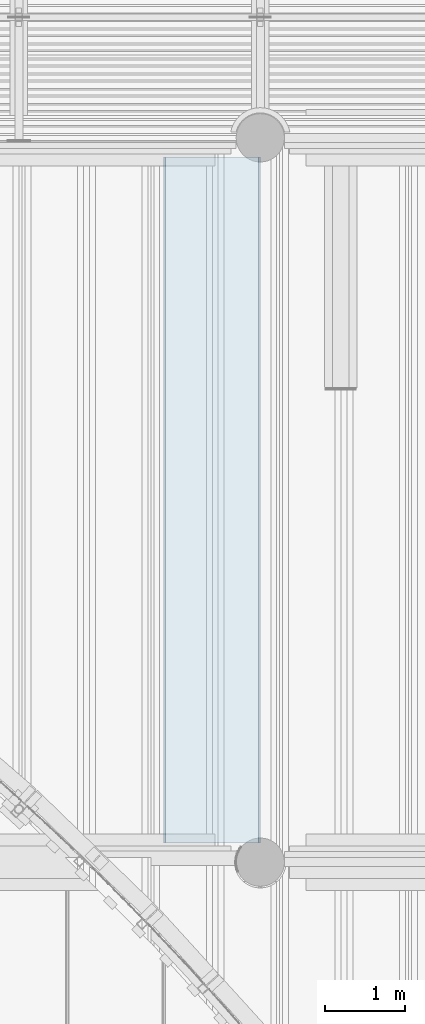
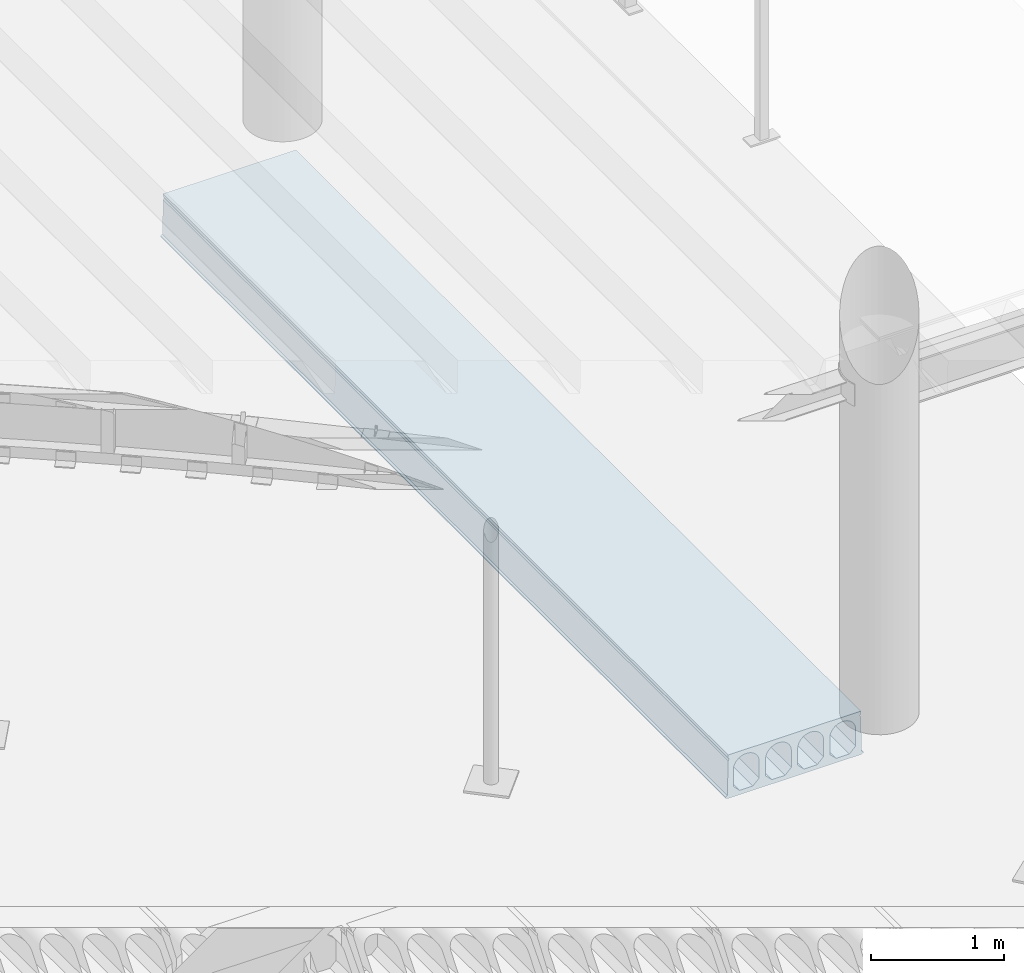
# One storey, part 67 of 98: 1 slab.
"""IFC2X3 building model written with IfcOpenShell, lengths in millimetres."""

from ifc_helpers import new_model, entity, si_unit, converted_unit, derived_unit, direction, frame, origin_with_axes, place, context, subcontext, project, spatial, faceted_brep, material, type_object, element, save


model = new_model("IFC2X3")

# Units and contexts
model_context = context("Model", 3, precision=0.01, world=frame((0.0, 4.29681676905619e-09, 0.0)), true_north=direction((4.01073788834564e-13, 1.0)))
plan_context = context("Plan", 3, precision=0.01, world=frame((0.0, 4.29681676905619e-09, 0.0)), true_north=direction((4.01073788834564e-13, 1.0)))
body_context = subcontext(model_context, "Body", "Model", "MODEL_VIEW")
ifc_project = project(units=[converted_unit("PLANEANGLEUNIT", "DEGREE", entity("IfcPositiveLengthMeasure", 0.0174532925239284), si_unit("PLANEANGLEUNIT", "RADIAN"), dimensions=[0, 0, 0, 0, 0, 0, 0]), si_unit("AREAUNIT", "SQUARE_METRE"), si_unit("LENGTHUNIT", "METRE", prefix="MILLI"), si_unit("MASSUNIT", "GRAM", prefix="KILO"), si_unit("POWERUNIT", "WATT"), si_unit("PRESSUREUNIT", "PASCAL"), si_unit("FORCEUNIT", "NEWTON", prefix="KILO"), si_unit("ELECTRICCURRENTUNIT", "AMPERE"), si_unit("THERMODYNAMICTEMPERATUREUNIT", "DEGREE_CELSIUS"), si_unit("TIMEUNIT", "SECOND"), si_unit("VOLUMEUNIT", "CUBIC_METRE"), derived_unit("LINEARVELOCITYUNIT", [(si_unit("LENGTHUNIT", "METRE"), 1), (si_unit("TIMEUNIT", "SECOND"), -1)]), derived_unit("VOLUMETRICFLOWRATEUNIT", [(si_unit("VOLUMEUNIT", "CUBIC_METRE"), 1), (si_unit("TIMEUNIT", "SECOND"), -1)]), derived_unit("THERMALTRANSMITTANCEUNIT", [(si_unit("POWERUNIT", "WATT"), 1), (si_unit("THERMODYNAMICTEMPERATUREUNIT", "KELVIN"), -1), (si_unit("AREAUNIT", "SQUARE_METRE"), -1)])], contexts=[model_context, plan_context])

# Site, building, storey
site_placement = place(None, frame((0.0, -4.29681676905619e-09, 0.0), z_axis=(0.0, 0.0, 1.0), x_axis=(1.0, 0.0, 0.0)))
site = spatial("IfcSite", under=ifc_project, at=site_placement, Name="Gardermoen", CompositionType="ELEMENT")
building_placement = place(site_placement, frame((0.0, 4.29681676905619e-09, 0.0), z_axis=(0.0, 0.0, 1.0), x_axis=(1.0, 0.0, 0.0)))
building = spatial("IfcBuilding", under=site, at=building_placement, Name="TS", CompositionType="ELEMENT")
storey_placement = place(building_placement, origin_with_axes())
storey = spatial("IfcBuildingStorey", under=building, at=storey_placement, Name="D", CompositionType="ELEMENT", Elevation=0.0)

# Slab
ifc_material = material(Name="CONCRETE/C45/55")
slab_type = type_object("IfcSlabType", Name="HD400", PredefinedType="NOTDEFINED")
slab_placement = place(storey_placement, frame((528399.999766, 405739.995625, 203600.0), z_axis=(0.0, 0.0, 1.0), x_axis=(0.0, 1.0, 0.0)))
element("IfcSlab", 1, at=slab_placement, inside=storey, type_object=slab_type, material=ifc_material, Name="HULLDEKKE", ObjectType="HD400", PredefinedType="FLOOR", context=body_context, shape_type="Brep", body=[
    faceted_brep([(0.0, 600.0, -190.0), (0.0, 600.0, -180.0), (8520.00875000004, 600.0, -180.0), (8520.00875000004, 600.0, -190.0), (0.0, 585.0, -170.0), (8520.00875000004, 585.0, -170.0), (0.0, 577.5, 145.0), (8520.00875000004, 577.5, 145.0), (0.0, 570.0, 160.0), (8520.00875000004, 570.0, 160.0), (0.0, 577.5, 175.0), (8520.00875000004, 577.5, 175.0), (0.0, 577.5, 200.0), (8520.00875000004, 577.5, 200.0), (0.0, -577.5, 200.0), (8520.00875000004, -577.5, 200.0), (0.0, -577.5, 175.0), (8520.00875000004, -577.5, 175.0), (0.0, -570.0, 160.0), (8520.00875000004, -570.0, 160.0), (0.0, -577.5, 145.0), (8520.00875000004, -577.5, 145.0), (0.0, -585.0, -170.0), (8520.00875000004, -585.0, -170.0), (0.0, -600.0, -180.0), (8520.00875000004, -600.0, -180.0), (0.0, -600.0, -190.0), (8520.00875000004, -600.0, -190.0), (0.0, -583.380004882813, -200.0), (8520.00875000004, -583.380004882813, -200.0), (0.0, 583.380004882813, -200.0), (8520.00875000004, 583.380004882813, -200.0), (0.0, -362.5, -160.0), (0.0, -477.5, -160.0), (8520.00875000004, -477.5, -160.0), (8520.00875000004, -362.5, -160.0), (0.0, -532.5, -105.0), (8520.00875000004, -532.5, -105.0), (0.0, -532.5, 47.5), (8520.00875000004, -532.5, 47.5), (0.0, -532.115755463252, 56.7901763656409), (8520.00875000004, -532.115755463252, 56.7901763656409), (0.0, -530.965646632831, 66.0168914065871), (8520.00875000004, -530.965646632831, 66.0168914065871), (0.0, -529.057529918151, 75.1171173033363), (8520.00875000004, -529.057529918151, 75.1171173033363), (0.0, -526.404439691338, 84.028690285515), (8520.00875000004, -526.404439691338, 84.028690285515), (0.0, -523.024499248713, 92.6907352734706), (8520.00875000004, -523.024499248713, 92.6907352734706), (0.0, -518.940797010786, 101.044081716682), (8520.00875000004, -518.940797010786, 101.044081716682), (0.0, -514.181228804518, 109.031667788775), (8520.00875000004, -514.181228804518, 109.031667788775), (0.0, -508.778307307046, 116.598930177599), (8520.00875000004, -508.778307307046, 116.598930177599), (0.0, -502.768939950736, 123.694176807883), (8520.00875000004, -502.768939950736, 123.694176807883), (0.0, -496.194176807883, 130.268939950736), (8520.00875000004, -496.194176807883, 130.268939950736), (0.0, -489.098930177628, 136.278307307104), (8520.00875000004, -489.098930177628, 136.278307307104), (0.0, -481.531667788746, 141.681228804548), (8520.00875000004, -481.531667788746, 141.681228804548), (0.0, -473.544081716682, 146.440797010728), (8520.00875000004, -473.544081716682, 146.440797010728), (0.0, -465.190735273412, 150.524499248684), (8520.00875000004, -465.190735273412, 150.524499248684), (0.0, -456.528690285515, 153.904439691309), (8520.00875000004, -456.528690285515, 153.904439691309), (0.0, -447.617117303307, 156.55752991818), (8520.00875000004, -447.617117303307, 156.55752991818), (0.0, -438.516891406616, 158.465646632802), (8520.00875000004, -438.516891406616, 158.465646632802), (0.0, -429.290176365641, 159.615755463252), (8520.00875000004, -429.290176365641, 159.615755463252), (0.0, -420.0, 160.0), (8520.00875000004, -420.0, 160.0), (0.0, -410.709823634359, 159.615755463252), (8520.00875000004, -410.709823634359, 159.615755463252), (0.0, -401.483108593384, 158.465646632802), (8520.00875000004, -401.483108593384, 158.465646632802), (0.0, -392.382882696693, 156.55752991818), (8520.00875000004, -392.382882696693, 156.55752991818), (0.0, -383.471309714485, 153.904439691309), (8520.00875000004, -383.471309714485, 153.904439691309), (0.0, -374.809264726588, 150.524499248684), (8520.00875000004, -374.809264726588, 150.524499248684), (0.0, -366.455918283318, 146.440797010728), (8520.00875000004, -366.455918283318, 146.440797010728), (0.0, -358.468332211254, 141.681228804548), (8520.00875000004, -358.468332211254, 141.681228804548), (0.0, -350.901069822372, 136.278307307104), (8520.00875000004, -350.901069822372, 136.278307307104), (0.0, -343.805823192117, 130.268939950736), (8520.00875000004, -343.805823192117, 130.268939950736), (0.0, -337.231060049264, 123.694176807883), (8520.00875000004, -337.231060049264, 123.694176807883), (0.0, -331.221692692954, 116.598930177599), (8520.00875000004, -331.221692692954, 116.598930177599), (0.0, -325.818771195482, 109.031667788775), (8520.00875000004, -325.818771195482, 109.031667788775), (0.0, -321.059202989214, 101.044081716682), (8520.00875000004, -321.059202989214, 101.044081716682), (0.0, -316.975500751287, 92.6907352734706), (8520.00875000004, -316.975500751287, 92.6907352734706), (0.0, -313.595560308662, 84.028690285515), (8520.00875000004, -313.595560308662, 84.028690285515), (0.0, -310.942470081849, 75.1171173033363), (8520.00875000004, -310.942470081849, 75.1171173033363), (0.0, -309.034353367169, 66.0168914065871), (8520.00875000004, -309.034353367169, 66.0168914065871), (0.0, -307.884244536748, 56.7901763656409), (8520.00875000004, -307.884244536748, 56.7901763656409), (0.0, -307.5, 47.5), (8520.00875000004, -307.5, 47.5), (0.0, -307.5, -105.0), (8520.00875000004, -307.5, -105.0), (0.0, -82.5, -160.0), (0.0, -197.5, -160.0), (8520.00875000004, -197.5, -160.0), (8520.00875000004, -82.5, -160.0), (0.0, -252.5, -105.0), (8520.00875000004, -252.5, -105.0), (0.0, -252.5, 47.5), (8520.00875000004, -252.5, 47.5), (0.0, -252.115755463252, 56.7901763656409), (8520.00875000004, -252.115755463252, 56.7901763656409), (0.0, -250.965646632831, 66.0168914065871), (8520.00875000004, -250.965646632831, 66.0168914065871), (0.0, -249.057529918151, 75.1171173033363), (8520.00875000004, -249.057529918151, 75.1171173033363), (0.0, -246.404439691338, 84.028690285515), (8520.00875000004, -246.404439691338, 84.028690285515), (0.0, -243.024499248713, 92.6907352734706), (8520.00875000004, -243.024499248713, 92.6907352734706), (0.0, -238.940797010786, 101.044081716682), (8520.00875000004, -238.940797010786, 101.044081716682), (0.0, -234.181228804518, 109.031667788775), (8520.00875000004, -234.181228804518, 109.031667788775), (0.0, -228.778307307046, 116.598930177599), (8520.00875000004, -228.778307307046, 116.598930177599), (0.0, -222.768939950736, 123.694176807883), (8520.00875000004, -222.768939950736, 123.694176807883), (0.0, -216.194176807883, 130.268939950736), (8520.00875000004, -216.194176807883, 130.268939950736), (0.0, -209.098930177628, 136.278307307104), (8520.00875000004, -209.098930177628, 136.278307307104), (0.0, -201.531667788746, 141.681228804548), (8520.00875000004, -201.531667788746, 141.681228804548), (0.0, -193.544081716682, 146.440797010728), (8520.00875000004, -193.544081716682, 146.440797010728), (0.0, -185.190735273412, 150.524499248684), (8520.00875000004, -185.190735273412, 150.524499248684), (0.0, -176.528690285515, 153.904439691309), (8520.00875000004, -176.528690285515, 153.904439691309), (0.0, -167.617117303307, 156.55752991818), (8520.00875000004, -167.617117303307, 156.55752991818), (0.0, -158.516891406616, 158.465646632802), (8520.00875000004, -158.516891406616, 158.465646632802), (0.0, -149.290176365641, 159.615755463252), (8520.00875000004, -149.290176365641, 159.615755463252), (0.0, -140.0, 160.0), (8520.00875000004, -140.0, 160.0), (0.0, -130.709823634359, 159.615755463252), (8520.00875000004, -130.709823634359, 159.615755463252), (0.0, -121.483108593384, 158.465646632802), (8520.00875000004, -121.483108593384, 158.465646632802), (0.0, -112.382882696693, 156.55752991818), (8520.00875000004, -112.382882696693, 156.55752991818), (0.0, -103.471309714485, 153.904439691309), (8520.00875000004, -103.471309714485, 153.904439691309), (0.0, -94.8092647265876, 150.524499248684), (8520.00875000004, -94.8092647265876, 150.524499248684), (0.0, -86.4559182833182, 146.440797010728), (8520.00875000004, -86.4559182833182, 146.440797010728), (0.0, -78.4683322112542, 141.681228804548), (8520.00875000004, -78.4683322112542, 141.681228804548), (0.0, -70.9010698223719, 136.278307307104), (8520.00875000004, -70.9010698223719, 136.278307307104), (0.0, -63.8058231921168, 130.268939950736), (8520.00875000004, -63.8058231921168, 130.268939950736), (0.0, -57.2310600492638, 123.694176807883), (8520.00875000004, -57.2310600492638, 123.694176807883), (0.0, -51.2216926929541, 116.598930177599), (8520.00875000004, -51.2216926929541, 116.598930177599), (0.0, -45.8187711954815, 109.031667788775), (8520.00875000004, -45.8187711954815, 109.031667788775), (0.0, -41.0592029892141, 101.044081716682), (8520.00875000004, -41.0592029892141, 101.044081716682), (0.0, -36.9755007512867, 92.6907352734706), (8520.00875000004, -36.9755007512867, 92.6907352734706), (0.0, -33.5955603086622, 84.028690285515), (8520.00875000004, -33.5955603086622, 84.028690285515), (0.0, -30.942470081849, 75.1171173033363), (8520.00875000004, -30.942470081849, 75.1171173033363), (0.0, -29.0343533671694, 66.0168914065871), (8520.00875000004, -29.0343533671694, 66.0168914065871), (0.0, -27.8842445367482, 56.7901763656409), (8520.00875000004, -27.8842445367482, 56.7901763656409), (0.0, -27.5, 47.5), (8520.00875000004, -27.5, 47.5), (0.0, -27.5, -105.0), (8520.00875000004, -27.5, -105.0), (0.0, 197.5, -160.0), (0.0, 82.5, -160.0), (8520.00875000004, 82.5, -160.0), (8520.00875000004, 197.5, -160.0), (0.0, 27.5, -105.0), (8520.00875000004, 27.5, -105.0), (0.0, 27.5, 47.5), (8520.00875000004, 27.5, 47.5), (0.0, 27.8842445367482, 56.7901763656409), (8520.00875000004, 27.8842445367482, 56.7901763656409), (0.0, 29.0343533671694, 66.0168914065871), (8520.00875000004, 29.0343533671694, 66.0168914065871), (0.0, 30.942470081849, 75.1171173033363), (8520.00875000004, 30.942470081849, 75.1171173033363), (0.0, 33.5955603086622, 84.028690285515), (8520.00875000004, 33.5955603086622, 84.028690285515), (0.0, 36.9755007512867, 92.6907352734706), (8520.00875000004, 36.9755007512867, 92.6907352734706), (0.0, 41.0592029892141, 101.044081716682), (8520.00875000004, 41.0592029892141, 101.044081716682), (0.0, 45.8187711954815, 109.031667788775), (8520.00875000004, 45.8187711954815, 109.031667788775), (0.0, 51.2216926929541, 116.598930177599), (8520.00875000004, 51.2216926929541, 116.598930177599), (0.0, 57.2310600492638, 123.694176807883), (8520.00875000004, 57.2310600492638, 123.694176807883), (0.0, 63.8058231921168, 130.268939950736), (8520.00875000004, 63.8058231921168, 130.268939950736), (0.0, 70.9010698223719, 136.278307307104), (8520.00875000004, 70.9010698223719, 136.278307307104), (0.0, 78.4683322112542, 141.681228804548), (8520.00875000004, 78.4683322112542, 141.681228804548), (0.0, 86.4559182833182, 146.440797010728), (8520.00875000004, 86.4559182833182, 146.440797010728), (0.0, 94.8092647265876, 150.524499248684), (8520.00875000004, 94.8092647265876, 150.524499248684), (0.0, 103.471309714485, 153.904439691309), (8520.00875000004, 103.471309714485, 153.904439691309), (0.0, 112.382882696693, 156.55752991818), (8520.00875000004, 112.382882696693, 156.55752991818), (0.0, 121.483108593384, 158.465646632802), (8520.00875000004, 121.483108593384, 158.465646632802), (0.0, 130.709823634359, 159.615755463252), (8520.00875000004, 130.709823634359, 159.615755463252), (0.0, 140.0, 160.0), (8520.00875000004, 140.0, 160.0), (0.0, 149.290176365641, 159.615755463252), (8520.00875000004, 149.290176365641, 159.615755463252), (0.0, 158.516891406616, 158.465646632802), (8520.00875000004, 158.516891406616, 158.465646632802), (0.0, 167.617117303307, 156.55752991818), (8520.00875000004, 167.617117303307, 156.55752991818), (0.0, 176.528690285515, 153.904439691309), (8520.00875000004, 176.528690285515, 153.904439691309), (0.0, 185.190735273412, 150.524499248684), (8520.00875000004, 185.190735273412, 150.524499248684), (0.0, 193.544081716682, 146.440797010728), (8520.00875000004, 193.544081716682, 146.440797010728), (0.0, 201.531667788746, 141.681228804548), (8520.00875000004, 201.531667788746, 141.681228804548), (0.0, 209.098930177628, 136.278307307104), (8520.00875000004, 209.098930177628, 136.278307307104), (0.0, 216.194176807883, 130.268939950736), (8520.00875000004, 216.194176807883, 130.268939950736), (0.0, 222.768939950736, 123.694176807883), (8520.00875000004, 222.768939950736, 123.694176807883), (0.0, 228.778307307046, 116.598930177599), (8520.00875000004, 228.778307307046, 116.598930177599), (0.0, 234.181228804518, 109.031667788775), (8520.00875000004, 234.181228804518, 109.031667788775), (0.0, 238.940797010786, 101.044081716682), (8520.00875000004, 238.940797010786, 101.044081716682), (0.0, 243.024499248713, 92.6907352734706), (8520.00875000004, 243.024499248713, 92.6907352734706), (0.0, 246.404439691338, 84.028690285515), (8520.00875000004, 246.404439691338, 84.028690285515), (0.0, 249.057529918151, 75.1171173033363), (8520.00875000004, 249.057529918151, 75.1171173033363), (0.0, 250.965646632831, 66.0168914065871), (8520.00875000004, 250.965646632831, 66.0168914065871), (0.0, 252.115755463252, 56.7901763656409), (8520.00875000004, 252.115755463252, 56.7901763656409), (0.0, 252.5, 47.5), (8520.00875000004, 252.5, 47.5), (0.0, 252.5, -105.0), (8520.00875000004, 252.5, -105.0), (0.0, 477.5, -160.0), (0.0, 362.5, -160.0), (8520.00875000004, 362.5, -160.0), (8520.00875000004, 477.5, -160.0), (0.0, 307.5, -105.0), (8520.00875000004, 307.5, -105.0), (0.0, 307.5, 47.5), (8520.00875000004, 307.5, 47.5), (0.0, 307.884244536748, 56.7901763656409), (8520.00875000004, 307.884244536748, 56.7901763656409), (0.0, 309.034353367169, 66.0168914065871), (8520.00875000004, 309.034353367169, 66.0168914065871), (0.0, 310.942470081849, 75.1171173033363), (8520.00875000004, 310.942470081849, 75.1171173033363), (0.0, 313.595560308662, 84.028690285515), (8520.00875000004, 313.595560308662, 84.028690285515), (0.0, 316.975500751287, 92.6907352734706), (8520.00875000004, 316.975500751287, 92.6907352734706), (0.0, 321.059202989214, 101.044081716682), (8520.00875000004, 321.059202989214, 101.044081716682), (0.0, 325.818771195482, 109.031667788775), (8520.00875000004, 325.818771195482, 109.031667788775), (0.0, 331.221692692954, 116.598930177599), (8520.00875000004, 331.221692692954, 116.598930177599), (0.0, 337.231060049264, 123.694176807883), (8520.00875000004, 337.231060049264, 123.694176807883), (0.0, 343.805823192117, 130.268939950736), (8520.00875000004, 343.805823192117, 130.268939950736), (0.0, 350.901069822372, 136.278307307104), (8520.00875000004, 350.901069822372, 136.278307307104), (0.0, 358.468332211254, 141.681228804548), (8520.00875000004, 358.468332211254, 141.681228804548), (0.0, 366.455918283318, 146.440797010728), (8520.00875000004, 366.455918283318, 146.440797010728), (0.0, 374.809264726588, 150.524499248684), (8520.00875000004, 374.809264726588, 150.524499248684), (0.0, 383.471309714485, 153.904439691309), (8520.00875000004, 383.471309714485, 153.904439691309), (0.0, 392.382882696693, 156.55752991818), (8520.00875000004, 392.382882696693, 156.55752991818), (0.0, 401.483108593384, 158.465646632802), (8520.00875000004, 401.483108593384, 158.465646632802), (0.0, 410.709823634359, 159.615755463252), (8520.00875000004, 410.709823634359, 159.615755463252), (0.0, 420.0, 160.0), (8520.00875000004, 420.0, 160.0), (0.0, 429.290176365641, 159.615755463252), (8520.00875000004, 429.290176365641, 159.615755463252), (0.0, 438.516891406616, 158.465646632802), (8520.00875000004, 438.516891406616, 158.465646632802), (0.0, 447.617117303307, 156.55752991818), (8520.00875000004, 447.617117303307, 156.55752991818), (0.0, 456.528690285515, 153.904439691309), (8520.00875000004, 456.528690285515, 153.904439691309), (0.0, 465.190735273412, 150.524499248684), (8520.00875000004, 465.190735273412, 150.524499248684), (0.0, 473.544081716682, 146.440797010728), (8520.00875000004, 473.544081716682, 146.440797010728), (0.0, 481.531667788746, 141.681228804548), (8520.00875000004, 481.531667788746, 141.681228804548), (0.0, 489.098930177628, 136.278307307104), (8520.00875000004, 489.098930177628, 136.278307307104), (0.0, 496.194176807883, 130.268939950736), (8520.00875000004, 496.194176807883, 130.268939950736), (0.0, 502.768939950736, 123.694176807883), (8520.00875000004, 502.768939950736, 123.694176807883), (0.0, 508.778307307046, 116.598930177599), (8520.00875000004, 508.778307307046, 116.598930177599), (0.0, 514.181228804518, 109.031667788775), (8520.00875000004, 514.181228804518, 109.031667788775), (0.0, 518.940797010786, 101.044081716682), (8520.00875000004, 518.940797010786, 101.044081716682), (0.0, 523.024499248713, 92.6907352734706), (8520.00875000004, 523.024499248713, 92.6907352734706), (0.0, 526.404439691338, 84.028690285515), (8520.00875000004, 526.404439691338, 84.028690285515), (0.0, 529.057529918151, 75.1171173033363), (8520.00875000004, 529.057529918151, 75.1171173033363), (0.0, 530.965646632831, 66.0168914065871), (8520.00875000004, 530.965646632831, 66.0168914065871), (0.0, 532.115755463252, 56.7901763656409), (8520.00875000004, 532.115755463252, 56.7901763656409), (0.0, 532.5, 47.5), (8520.00875000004, 532.5, 47.5), (0.0, 532.5, -105.0), (8520.00875000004, 532.5, -105.0)], [[[0, 1, 2, 3]], [[1, 4, 5, 2]], [[4, 6, 7, 5]], [[6, 8, 9, 7]], [[8, 10, 11, 9]], [[10, 12, 13, 11]], [[12, 14, 15, 13]], [[14, 16, 17, 15]], [[16, 18, 19, 17]], [[18, 20, 21, 19]], [[20, 22, 23, 21]], [[22, 24, 25, 23]], [[24, 26, 27, 25]], [[26, 28, 29, 27]], [[28, 30, 31, 29]], [[30, 0, 3, 31]], [[32, 33, 34, 35]], [[33, 36, 37, 34]], [[36, 38, 39, 37]], [[38, 40, 41, 39]], [[40, 42, 43, 41]], [[42, 44, 45, 43]], [[44, 46, 47, 45]], [[46, 48, 49, 47]], [[48, 50, 51, 49]], [[50, 52, 53, 51]], [[52, 54, 55, 53]], [[54, 56, 57, 55]], [[56, 58, 59, 57]], [[58, 60, 61, 59]], [[60, 62, 63, 61]], [[62, 64, 65, 63]], [[64, 66, 67, 65]], [[66, 68, 69, 67]], [[68, 70, 71, 69]], [[70, 72, 73, 71]], [[72, 74, 75, 73]], [[74, 76, 77, 75]], [[76, 78, 79, 77]], [[78, 80, 81, 79]], [[80, 82, 83, 81]], [[82, 84, 85, 83]], [[84, 86, 87, 85]], [[86, 88, 89, 87]], [[88, 90, 91, 89]], [[90, 92, 93, 91]], [[92, 94, 95, 93]], [[94, 96, 97, 95]], [[96, 98, 99, 97]], [[98, 100, 101, 99]], [[100, 102, 103, 101]], [[102, 104, 105, 103]], [[104, 106, 107, 105]], [[106, 108, 109, 107]], [[108, 110, 111, 109]], [[110, 112, 113, 111]], [[112, 114, 115, 113]], [[114, 116, 117, 115]], [[116, 32, 35, 117]], [[118, 119, 120, 121]], [[119, 122, 123, 120]], [[122, 124, 125, 123]], [[124, 126, 127, 125]], [[126, 128, 129, 127]], [[128, 130, 131, 129]], [[130, 132, 133, 131]], [[132, 134, 135, 133]], [[134, 136, 137, 135]], [[136, 138, 139, 137]], [[138, 140, 141, 139]], [[140, 142, 143, 141]], [[142, 144, 145, 143]], [[144, 146, 147, 145]], [[146, 148, 149, 147]], [[148, 150, 151, 149]], [[150, 152, 153, 151]], [[152, 154, 155, 153]], [[154, 156, 157, 155]], [[156, 158, 159, 157]], [[158, 160, 161, 159]], [[160, 162, 163, 161]], [[162, 164, 165, 163]], [[164, 166, 167, 165]], [[166, 168, 169, 167]], [[168, 170, 171, 169]], [[170, 172, 173, 171]], [[172, 174, 175, 173]], [[174, 176, 177, 175]], [[176, 178, 179, 177]], [[178, 180, 181, 179]], [[180, 182, 183, 181]], [[182, 184, 185, 183]], [[184, 186, 187, 185]], [[186, 188, 189, 187]], [[188, 190, 191, 189]], [[190, 192, 193, 191]], [[192, 194, 195, 193]], [[194, 196, 197, 195]], [[196, 198, 199, 197]], [[198, 200, 201, 199]], [[200, 202, 203, 201]], [[202, 118, 121, 203]], [[204, 205, 206, 207]], [[205, 208, 209, 206]], [[208, 210, 211, 209]], [[210, 212, 213, 211]], [[212, 214, 215, 213]], [[214, 216, 217, 215]], [[216, 218, 219, 217]], [[218, 220, 221, 219]], [[220, 222, 223, 221]], [[222, 224, 225, 223]], [[224, 226, 227, 225]], [[226, 228, 229, 227]], [[228, 230, 231, 229]], [[230, 232, 233, 231]], [[232, 234, 235, 233]], [[234, 236, 237, 235]], [[236, 238, 239, 237]], [[238, 240, 241, 239]], [[240, 242, 243, 241]], [[242, 244, 245, 243]], [[244, 246, 247, 245]], [[246, 248, 249, 247]], [[248, 250, 251, 249]], [[250, 252, 253, 251]], [[252, 254, 255, 253]], [[254, 256, 257, 255]], [[256, 258, 259, 257]], [[258, 260, 261, 259]], [[260, 262, 263, 261]], [[262, 264, 265, 263]], [[264, 266, 267, 265]], [[266, 268, 269, 267]], [[268, 270, 271, 269]], [[270, 272, 273, 271]], [[272, 274, 275, 273]], [[274, 276, 277, 275]], [[276, 278, 279, 277]], [[278, 280, 281, 279]], [[280, 282, 283, 281]], [[282, 284, 285, 283]], [[284, 286, 287, 285]], [[286, 288, 289, 287]], [[288, 204, 207, 289]], [[290, 291, 292, 293]], [[291, 294, 295, 292]], [[294, 296, 297, 295]], [[296, 298, 299, 297]], [[298, 300, 301, 299]], [[300, 302, 303, 301]], [[302, 304, 305, 303]], [[304, 306, 307, 305]], [[306, 308, 309, 307]], [[308, 310, 311, 309]], [[310, 312, 313, 311]], [[312, 314, 315, 313]], [[314, 316, 317, 315]], [[316, 318, 319, 317]], [[318, 320, 321, 319]], [[320, 322, 323, 321]], [[322, 324, 325, 323]], [[324, 326, 327, 325]], [[326, 328, 329, 327]], [[328, 330, 331, 329]], [[330, 332, 333, 331]], [[332, 334, 335, 333]], [[334, 336, 337, 335]], [[336, 338, 339, 337]], [[338, 340, 341, 339]], [[340, 342, 343, 341]], [[342, 344, 345, 343]], [[344, 346, 347, 345]], [[346, 348, 349, 347]], [[348, 350, 351, 349]], [[350, 352, 353, 351]], [[352, 354, 355, 353]], [[354, 356, 357, 355]], [[356, 358, 359, 357]], [[358, 360, 361, 359]], [[360, 362, 363, 361]], [[362, 364, 365, 363]], [[364, 366, 367, 365]], [[366, 368, 369, 367]], [[368, 370, 371, 369]], [[370, 372, 373, 371]], [[372, 374, 375, 373]], [[374, 290, 293, 375]], [[5, 7, 9, 11, 13, 15, 17, 19, 21, 23, 25, 27, 29, 31, 3, 2], [295, 297, 299, 301, 303, 305, 307, 309, 311, 313, 315, 317, 319, 321, 323, 325, 327, 329, 331, 333, 335, 337, 339, 341, 343, 345, 347, 349, 351, 353, 355, 357, 359, 361, 363, 365, 367, 369, 371, 373, 375, 293, 292], [209, 211, 213, 215, 217, 219, 221, 223, 225, 227, 229, 231, 233, 235, 237, 239, 241, 243, 245, 247, 249, 251, 253, 255, 257, 259, 261, 263, 265, 267, 269, 271, 273, 275, 277, 279, 281, 283, 285, 287, 289, 207, 206], [123, 125, 127, 129, 131, 133, 135, 137, 139, 141, 143, 145, 147, 149, 151, 153, 155, 157, 159, 161, 163, 165, 167, 169, 171, 173, 175, 177, 179, 181, 183, 185, 187, 189, 191, 193, 195, 197, 199, 201, 203, 121, 120], [37, 39, 41, 43, 45, 47, 49, 51, 53, 55, 57, 59, 61, 63, 65, 67, 69, 71, 73, 75, 77, 79, 81, 83, 85, 87, 89, 91, 93, 95, 97, 99, 101, 103, 105, 107, 109, 111, 113, 115, 117, 35, 34]], [[30, 28, 26, 24, 22, 20, 18, 16, 14, 12, 10, 8, 6, 4, 1, 0], [374, 372, 370, 368, 366, 364, 362, 360, 358, 356, 354, 352, 350, 348, 346, 344, 342, 340, 338, 336, 334, 332, 330, 328, 326, 324, 322, 320, 318, 316, 314, 312, 310, 308, 306, 304, 302, 300, 298, 296, 294, 291, 290], [288, 286, 284, 282, 280, 278, 276, 274, 272, 270, 268, 266, 264, 262, 260, 258, 256, 254, 252, 250, 248, 246, 244, 242, 240, 238, 236, 234, 232, 230, 228, 226, 224, 222, 220, 218, 216, 214, 212, 210, 208, 205, 204], [202, 200, 198, 196, 194, 192, 190, 188, 186, 184, 182, 180, 178, 176, 174, 172, 170, 168, 166, 164, 162, 160, 158, 156, 154, 152, 150, 148, 146, 144, 142, 140, 138, 136, 134, 132, 130, 128, 126, 124, 122, 119, 118], [116, 114, 112, 110, 108, 106, 104, 102, 100, 98, 96, 94, 92, 90, 88, 86, 84, 82, 80, 78, 76, 74, 72, 70, 68, 66, 64, 62, 60, 58, 56, 54, 52, 50, 48, 46, 44, 42, 40, 38, 36, 33, 32]]]),
])

save(model, "model.ifc")
